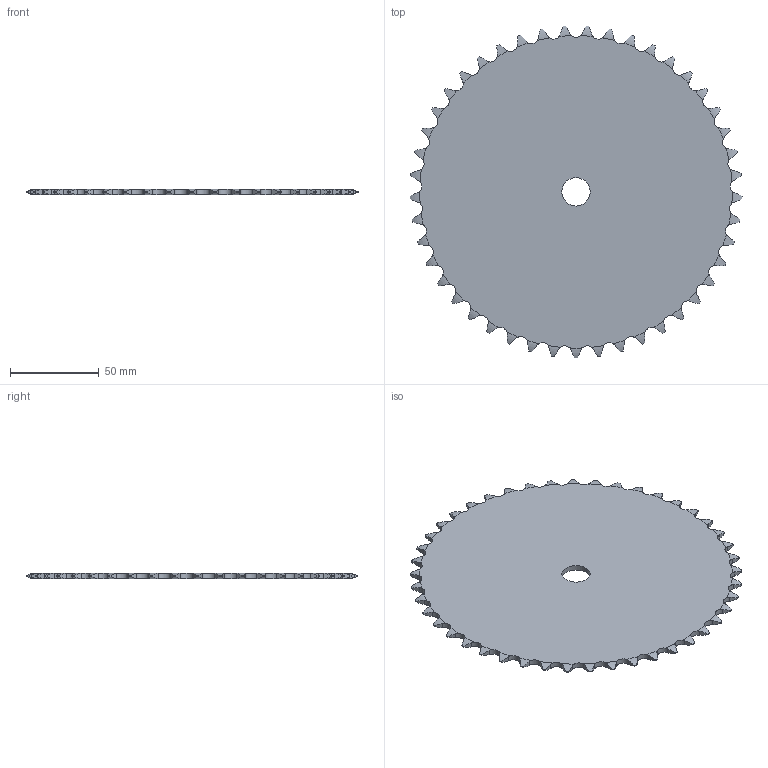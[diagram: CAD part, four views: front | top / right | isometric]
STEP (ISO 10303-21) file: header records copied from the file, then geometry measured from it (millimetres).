
FILE_DESCRIPTION((''),'2;1');
FILE_NAME('500-231-0045_PRT','2021-02-12T',('Brieden'),('Brieden'),'PRO/ENGINEER BY PARAMETRIC TECHNOLOGY CORPORATION, 2010160','PRO/ENGINEER BY PARAMETRIC TECHNOLOGY CORPORATION, 2010160','');
FILE_SCHEMA(('AUTOMOTIVE_DESIGN { 1 0 10303 214 1 1 1 1 }'));
Length unit declared in the file: millimetre
Products named in the file (1): 500-231-0045_PRT
Bounding box: 187.4 x 187.28 x 3 mm (x, y, z)
Volume: 74669.3 mm3; surface area: 52420.3 mm2
Topology: 1 solids, 1 shells, 274 faces, 816 edges, 544 vertices
Faces by surface type: cylinder 182, torus 90, plane 2
Entity records: 13424 total; most frequent: CARTESIAN_POINT 3985, ORIENTED_EDGE 1632, DIRECTION 1278, PRESENTATION_STYLE_ASSIGNMENT 817, STYLED_ITEM 817, CURVE_STYLE 816, EDGE_CURVE 816, AXIS2_PLACEMENT_3D 548
